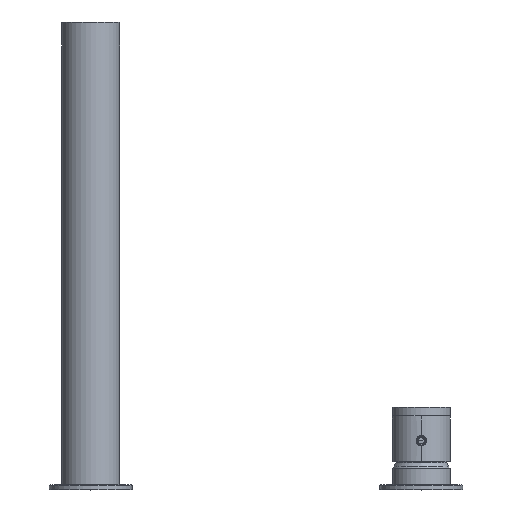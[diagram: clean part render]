
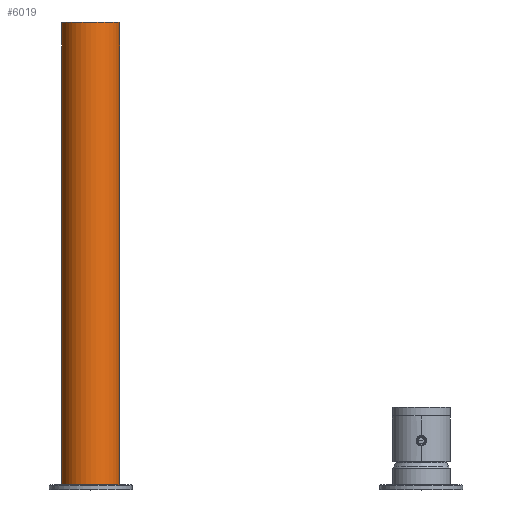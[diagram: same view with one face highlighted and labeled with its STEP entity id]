
A CAD part, top view. The second image highlights one B-rep face of the part: STEP entity #6019.
In plain terms, the highlighted cylindrical face has radius 17.5 mm (diameter 35 mm), a partial arc.
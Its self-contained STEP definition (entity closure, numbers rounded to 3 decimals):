
#2875=CARTESIAN_POINT('',(0.,0.,0.));
#2876=DIRECTION('',(0.,-1.,0.));
#2877=DIRECTION('',(1.,0.,0.));
#2878=AXIS2_PLACEMENT_3D('',#2875,#2876,#2877);
#2880=DIRECTION('',(0.,-1.,0.));
#2881=VECTOR('',#2880,274.);
#2882=CARTESIAN_POINT('',(-17.5,274.,0.));
#2883=LINE('',#2882,#2881);
#2884=DIRECTION('',(0.,-1.,0.));
#2885=VECTOR('',#2884,274.);
#2886=CARTESIAN_POINT('',(17.5,274.,0.));
#2887=LINE('',#2886,#2885);
#2892=DIRECTION('',(0.,-1.,0.));
#2893=VECTOR('',#2892,6.);
#2894=CARTESIAN_POINT('',(-17.5,280.,0.));
#2895=LINE('',#2894,#2893);
#2900=DIRECTION('',(0.,1.,0.));
#2901=VECTOR('',#2900,6.);
#2902=CARTESIAN_POINT('',(17.5,274.,0.));
#2903=LINE('',#2902,#2901);
#2904=CARTESIAN_POINT('',(0.,280.,0.));
#2905=DIRECTION('',(0.,1.,0.));
#2906=DIRECTION('',(-1.,0.,0.));
#2907=AXIS2_PLACEMENT_3D('',#2904,#2905,#2906);
#3230=CARTESIAN_POINT('',(-17.5,274.,0.));
#3231=CARTESIAN_POINT('',(17.5,274.,0.));
#3232=VERTEX_POINT('',#3230);
#3233=VERTEX_POINT('',#3231);
#3252=CARTESIAN_POINT('',(-17.5,280.,0.));
#3253=CARTESIAN_POINT('',(17.5,280.,0.));
#3254=VERTEX_POINT('',#3252);
#3255=VERTEX_POINT('',#3253);
#3352=CARTESIAN_POINT('',(-17.5,0.,0.));
#3353=CARTESIAN_POINT('',(17.5,0.,0.));
#3354=VERTEX_POINT('',#3352);
#3355=VERTEX_POINT('',#3353);
#6003=CARTESIAN_POINT('',(0.,287.7,0.));
#6004=DIRECTION('',(0.,-1.,0.));
#6005=DIRECTION('',(-1.,0.,0.));
#6006=AXIS2_PLACEMENT_3D('',#6003,#6004,#6005);
#6007=CYLINDRICAL_SURFACE('',#6006,17.5);
#6008=ORIENTED_EDGE('',*,*,#5396,.T.);
#6009=ORIENTED_EDGE('',*,*,#5379,.F.);
#6011=ORIENTED_EDGE('',*,*,#6010,.F.);
#6013=ORIENTED_EDGE('',*,*,#6012,.T.);
#6015=ORIENTED_EDGE('',*,*,#6014,.F.);
#6016=ORIENTED_EDGE('',*,*,#5376,.T.);
#6017=EDGE_LOOP('',(#6008,#6009,#6011,#6013,#6015,#6016));
#6018=FACE_OUTER_BOUND('',#6017,.F.);
#6019=ADVANCED_FACE('',(#6018),#6007,.T.);
#2879=CIRCLE('',#2878,17.5);
#2908=CIRCLE('',#2907,17.5);
#5376=EDGE_CURVE('',#3233,#3355,#2887,.T.);
#5379=EDGE_CURVE('',#3232,#3354,#2883,.T.);
#5396=EDGE_CURVE('',#3355,#3354,#2879,.T.);
#6010=EDGE_CURVE('',#3254,#3232,#2895,.T.);
#6012=EDGE_CURVE('',#3254,#3255,#2908,.T.);
#6014=EDGE_CURVE('',#3233,#3255,#2903,.T.);
